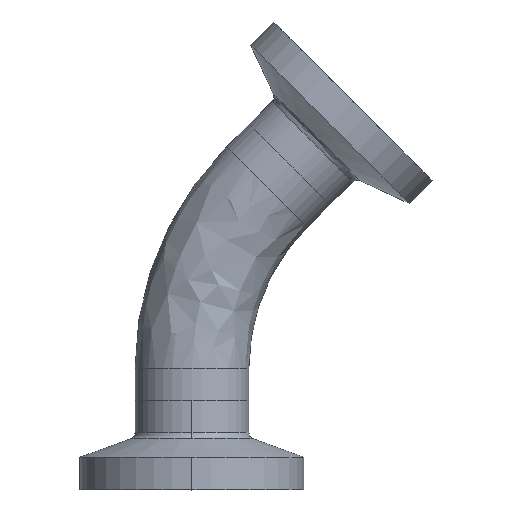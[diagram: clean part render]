
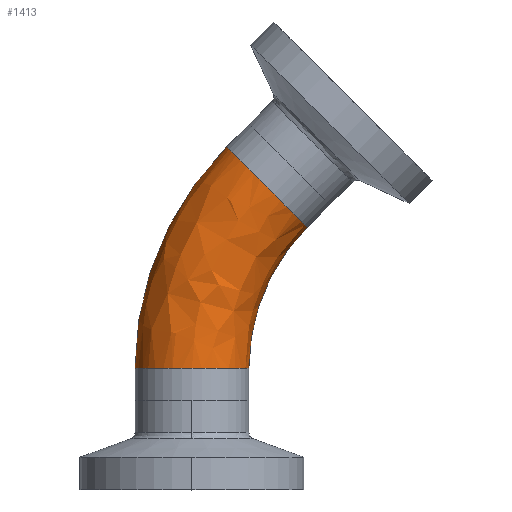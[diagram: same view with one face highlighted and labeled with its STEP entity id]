
A CAD part, top view. The second image highlights one B-rep face of the part: STEP entity #1413.
In plain terms, the highlighted free-form (B-spline) face has degree [3, 3] with [4, 4] control points.
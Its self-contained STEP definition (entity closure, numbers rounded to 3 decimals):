
#68 = CARTESIAN_POINT ( 'NONE',  ( 0., 3.553, 0. ) ) ;
#129 = DIRECTION ( 'NONE',  ( 0., 0., -1. ) ) ;
#183 = CARTESIAN_POINT ( 'NONE',  ( -6.35, 3.553, 12.7 ) ) ;
#185 = ORIENTED_EDGE ( 'NONE', *, *, #829, .T. ) ;
#205 = CARTESIAN_POINT ( 'NONE',  ( 6.35, 9.533, 0. ) ) ;
#208 = CARTESIAN_POINT ( 'NONE',  ( 12.867, 19.287, 0. ) ) ;
#226 = CIRCLE ( 'NONE', #1630, 6.35 ) ;
#236 = DIRECTION ( 'NONE',  ( -0.707, 0.707, 0. ) ) ;
#294 = VERTEX_POINT ( 'NONE', #538 ) ;
#315 = CARTESIAN_POINT ( 'NONE',  ( 3.887, 28.267, 0. ) ) ;
#337 = CARTESIAN_POINT ( 'NONE',  ( -6.35, 12.947, 0. ) ) ;
#377 = DIRECTION ( 'NONE',  ( -1., 0., 0. ) ) ;
#388 = CARTESIAN_POINT ( 'NONE',  ( 28.6, 3.553, 0. ) ) ;
#390 = DIRECTION ( 'NONE',  ( -0.707, -0.707, 0. ) ) ;
#430 = FACE_OUTER_BOUND ( 'NONE', #1009, .T. ) ;
#529 = AXIS2_PLACEMENT_3D ( 'NONE', #2022, #129, #1280 ) ;
#538 = CARTESIAN_POINT ( 'NONE',  ( 6.35, 3.553, 0. ) ) ;
#540 = VERTEX_POINT ( 'NONE', #550 ) ;
#550 = CARTESIAN_POINT ( 'NONE',  ( 12.867, 19.287, 0. ) ) ;
#553 = DIRECTION ( 'NONE',  ( 0., 1., 0. ) ) ;
#610 = ORIENTED_EDGE ( 'NONE', *, *, #1582, .T. ) ;
#631 = CARTESIAN_POINT ( 'NONE',  ( 6.35, 3.553, 12.7 ) ) ;
#632 = VERTEX_POINT ( 'NONE', #1384 ) ;
#650 = CARTESIAN_POINT ( 'NONE',  ( -6.35, 12.947, 12.7 ) ) ;
#676 = EDGE_CURVE ( 'NONE', #632, #1352, #2039, .T. ) ;
#696 = CARTESIAN_POINT ( 'NONE',  ( -6.35, 3.553, 0. ) ) ;
#809 = CARTESIAN_POINT ( 'NONE',  ( 6.35, 3.553, 0. ) ) ;
#829 = EDGE_CURVE ( 'NONE', #294, #540, #1966, .T. ) ;
#881 = DIRECTION ( 'NONE',  ( -1., 0., 0. ) ) ;
#918 = DIRECTION ( 'NONE',  ( 0., 0., -1. ) ) ;
#943 = CARTESIAN_POINT ( 'NONE',  ( 8.377, 23.777, 0. ) ) ;
#967 = CARTESIAN_POINT ( 'NONE',  ( 6.35, 9.533, 12.7 ) ) ;
#1009 = EDGE_LOOP ( 'NONE', ( #610, #185, #1635, #1580 ) ) ;
#1023 = CARTESIAN_POINT ( 'NONE',  ( 3.887, 28.267, 0. ) ) ;
#1040 =( BOUNDED_SURFACE ( )  B_SPLINE_SURFACE ( 3, 3, ( 
 ( #696, #337, #1452, #1023 ),
 ( #183, #650, #1118, #2044 ),
 ( #631, #967, #1957, #1756 ),
 ( #809, #205, #1475, #208 ) ),
 .UNSPECIFIED., .F., .F., .F. ) 
 B_SPLINE_SURFACE_WITH_KNOTS ( ( 4, 4 ),
 ( 4, 4 ),
 ( 0., 1. ),
 ( 0., 1. ),
 .UNSPECIFIED. ) 
 GEOMETRIC_REPRESENTATION_ITEM ( )  RATIONAL_B_SPLINE_SURFACE ( (
 ( 1., 0.949, 0.949, 1.),
 ( 0.333, 0.316, 0.316, 0.333),
 ( 0.333, 0.316, 0.316, 0.333),
 ( 1., 0.949, 0.949, 1.) ) ) 
 REPRESENTATION_ITEM ( '' )  SURFACE ( )  );
#1118 = CARTESIAN_POINT ( 'NONE',  ( -2.755, 21.625, 12.7 ) ) ;
#1140 = CIRCLE ( 'NONE', #1346, 6.35 ) ;
#1280 = DIRECTION ( 'NONE',  ( -1., 0., 0. ) ) ;
#1346 = AXIS2_PLACEMENT_3D ( 'NONE', #943, #390, #236 ) ;
#1352 = VERTEX_POINT ( 'NONE', #315 ) ;
#1384 = CARTESIAN_POINT ( 'NONE',  ( -6.35, 3.553, 0. ) ) ;
#1413 = ADVANCED_FACE ( 'NONE', ( #430 ), #1040, .T. ) ;
#1452 = CARTESIAN_POINT ( 'NONE',  ( -2.755, 21.625, 0. ) ) ;
#1475 = CARTESIAN_POINT ( 'NONE',  ( 8.638, 15.058, 0. ) ) ;
#1580 = ORIENTED_EDGE ( 'NONE', *, *, #676, .F. ) ;
#1582 = EDGE_CURVE ( 'NONE', #632, #294, #226, .T. ) ;
#1630 = AXIS2_PLACEMENT_3D ( 'NONE', #68, #553, #377 ) ;
#1635 = ORIENTED_EDGE ( 'NONE', *, *, #1816, .T. ) ;
#1756 = CARTESIAN_POINT ( 'NONE',  ( 12.867, 19.287, 12.7 ) ) ;
#1816 = EDGE_CURVE ( 'NONE', #540, #1352, #1140, .T. ) ;
#1849 = AXIS2_PLACEMENT_3D ( 'NONE', #388, #918, #881 ) ;
#1957 = CARTESIAN_POINT ( 'NONE',  ( 8.638, 15.058, 12.7 ) ) ;
#1966 = CIRCLE ( 'NONE', #529, 22.25 ) ;
#2022 = CARTESIAN_POINT ( 'NONE',  ( 28.6, 3.553, 0. ) ) ;
#2039 = CIRCLE ( 'NONE', #1849, 34.95 ) ;
#2044 = CARTESIAN_POINT ( 'NONE',  ( 3.887, 28.267, 12.7 ) ) ;
